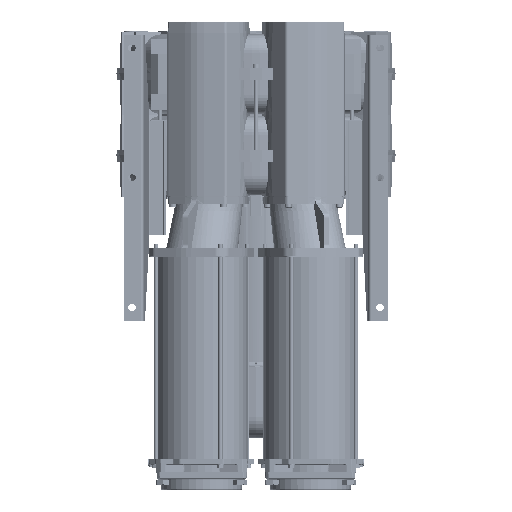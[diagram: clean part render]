
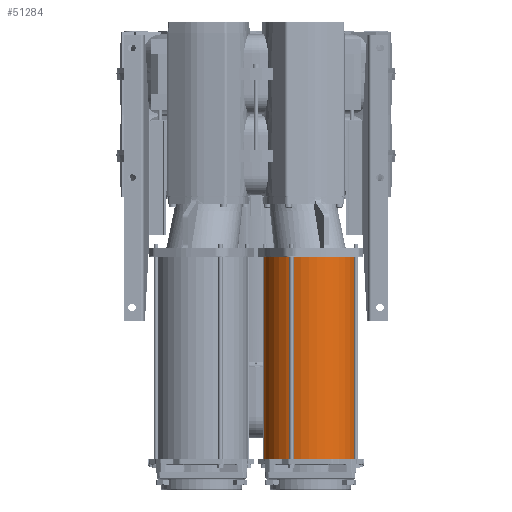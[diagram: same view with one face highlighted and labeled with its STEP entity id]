
A CAD part, front view. The second image highlights one B-rep face of the part: STEP entity #51284.
In plain terms, the highlighted cylindrical face has radius 90 mm (diameter 180 mm), a full revolution.
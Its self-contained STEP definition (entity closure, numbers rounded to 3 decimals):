
#3486 = AXIS2_PLACEMENT_3D ( 'NONE', #98724, #176674, #68791 ) ;
#21510 = EDGE_LOOP ( 'NONE', ( #47223 ) ) ;
#22579 = VERTEX_POINT ( 'NONE', #173433 ) ;
#27423 = CARTESIAN_POINT ( 'NONE',  ( 104.777, -252.953, -342. ) ) ;
#30997 = AXIS2_PLACEMENT_3D ( 'NONE', #27423, #41397, #102274 ) ;
#41397 = DIRECTION ( 'NONE',  ( 0., 0., 1. ) ) ;
#47223 = ORIENTED_EDGE ( 'NONE', *, *, #156436, .T. ) ;
#51284 = ADVANCED_FACE ( 'NONE', ( #66372, #65400 ), #127297, .T. ) ;
#52359 = CARTESIAN_POINT ( 'NONE',  ( 104.777, -252.953, -342.5 ) ) ;
#65400 = FACE_OUTER_BOUND ( 'NONE', #21510, .T. ) ;
#66372 = FACE_OUTER_BOUND ( 'NONE', #91975, .T. ) ;
#68791 = DIRECTION ( 'NONE',  ( 0.665, 0.747, 0. ) ) ;
#79338 = EDGE_CURVE ( 'NONE', #22579, #22579, #89698, .T. ) ;
#89698 = CIRCLE ( 'NONE', #3486, 90. ) ;
#91539 = CIRCLE ( 'NONE', #30997, 90. ) ;
#91975 = EDGE_LOOP ( 'NONE', ( #183612 ) ) ;
#98724 = CARTESIAN_POINT ( 'NONE',  ( 104.777, -252.953, 47. ) ) ;
#102274 = DIRECTION ( 'NONE',  ( 0.665, 0.747, 0. ) ) ;
#112288 = DIRECTION ( 'NONE',  ( -0.665, -0.747, 0. ) ) ;
#120940 = AXIS2_PLACEMENT_3D ( 'NONE', #52359, #126337, #112288 ) ;
#126337 = DIRECTION ( 'NONE',  ( 0., 0., 1. ) ) ;
#127297 = CYLINDRICAL_SURFACE ( 'NONE', #120940, 90. ) ;
#136002 = VERTEX_POINT ( 'NONE', #193052 ) ;
#156436 = EDGE_CURVE ( 'NONE', #136002, #136002, #91539, .T. ) ;
#173433 = CARTESIAN_POINT ( 'NONE',  ( 164.658, -185.766, 47. ) ) ;
#176674 = DIRECTION ( 'NONE',  ( 0., 0., -1. ) ) ;
#183612 = ORIENTED_EDGE ( 'NONE', *, *, #79338, .T. ) ;
#193052 = CARTESIAN_POINT ( 'NONE',  ( 164.658, -185.766, -342. ) ) ;
